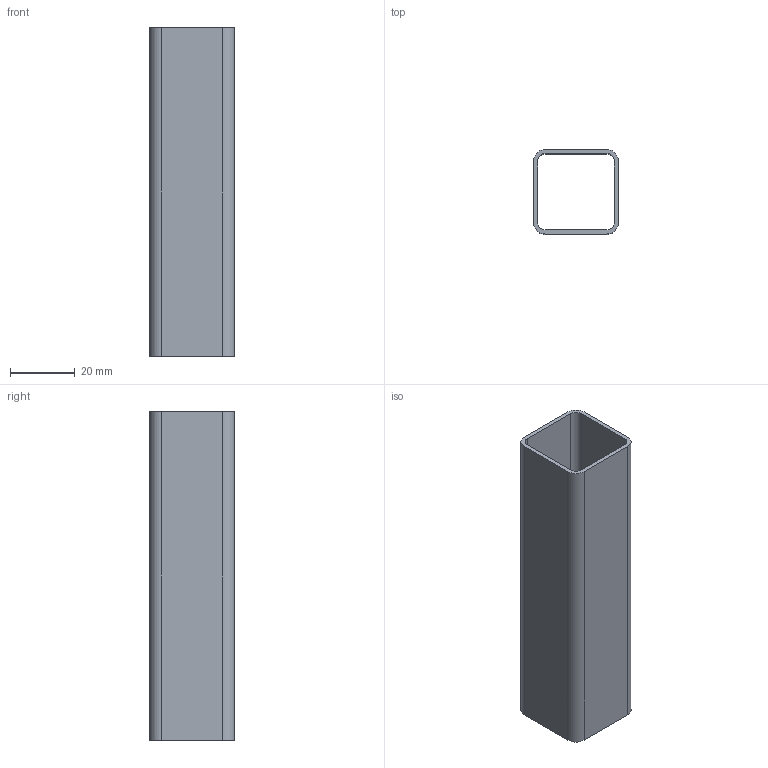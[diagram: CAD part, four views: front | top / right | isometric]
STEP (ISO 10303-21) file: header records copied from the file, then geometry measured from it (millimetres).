
FILE_DESCRIPTION (( 'STEP AP214' ), '1' );
FILE_NAME ('DRP-002-0000-01.STEP', '2010-06-24T16:33:01', ( '' ), ( '' ), 'SwSTEP 2.0', 'SolidWorks 2010', '' );
FILE_SCHEMA (( 'AUTOMOTIVE_DESIGN' ));
Length unit declared in the file: inch
Products named in the file (1): DRP-002-0000-01
Bounding box: 26.15 x 26.15 x 101.6 mm (x, y, z)
Volume: 12190.7 mm3; surface area: 19437.9 mm2
Topology: 1 solids, 1 shells, 18 faces, 48 edges, 32 vertices
Faces by surface type: plane 10, cylinder 8
Entity records: 612 total; most frequent: DIRECTION 102, CARTESIAN_POINT 99, ORIENTED_EDGE 96, EDGE_CURVE 48, AXIS2_PLACEMENT_3D 35, VERTEX_POINT 32, LINE 32, VECTOR 32
